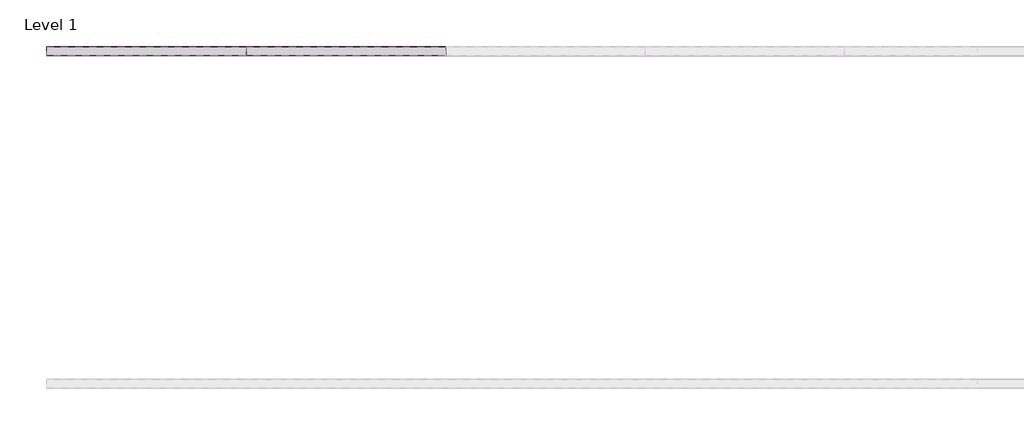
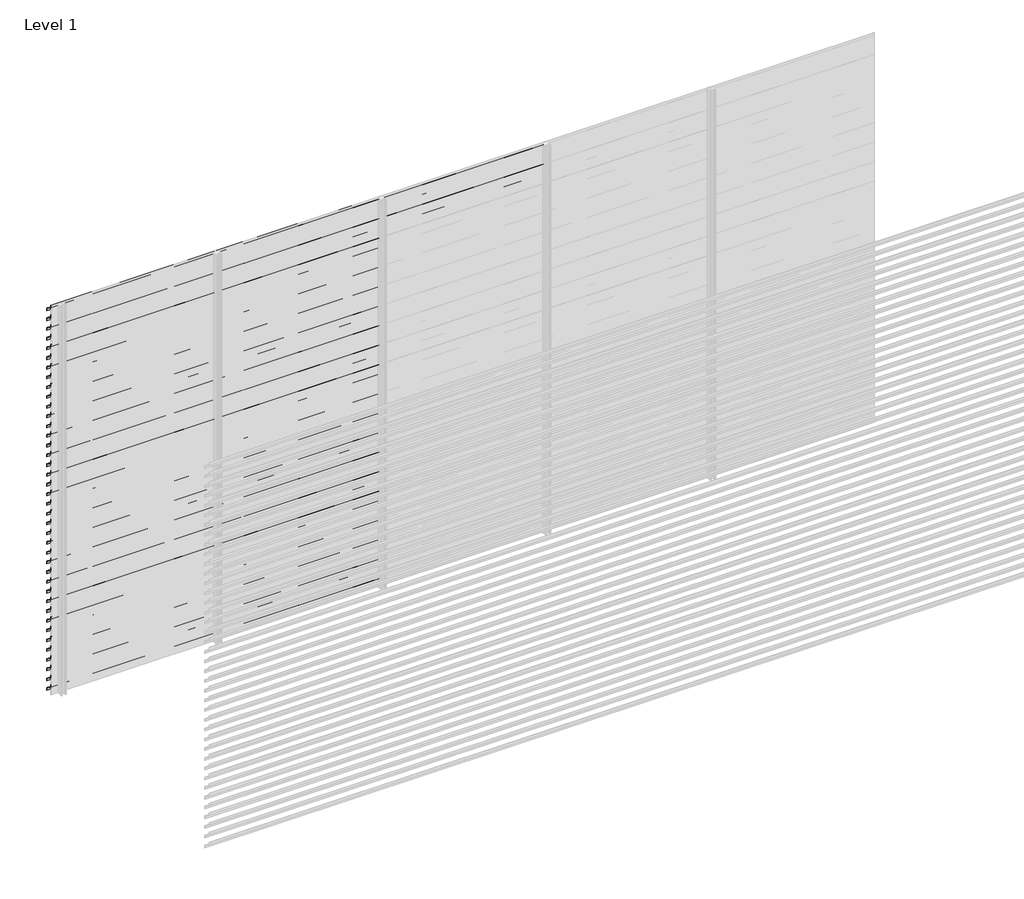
# One storey, part 42 of 55: 84 proxies.
"""IFC4 building model written with IfcOpenShell, lengths in millimetres."""

from ifc_helpers import new_model, si_unit, frame, origin, place, context, project, spatial, polyline, outline, extrude, element, save

model = new_model("IFC4")

# Units and contexts
model_context = context("Model", 3, world=origin())
ifc_project = project(units=[si_unit("LENGTHUNIT", "METRE", prefix="MILLI")], contexts=[model_context])

# Site, building, storey
site = spatial("IfcSite", under=ifc_project)
building = spatial("IfcBuilding", under=site)
storey = spatial("IfcBuildingStorey", under=building, Name="Level 1", Elevation=0.0)

# Proxies
placement = place(None, origin())
element("IfcBuildingElementProxy", 1, Name="Wall Sweeps", at=placement, inside=storey, context=model_context, shape_type="SweptSolid", body=[
    extrude(outline(polyline([(59081.0540136, 2943.5), (59081.0540136, 2923.5), (59079.8040136, 2924.2216933), (59079.8040136, 2942.7872415), (59026.0540136, 2980.3158044), (59026.0540136, 3000.0), (59027.3040136, 3000.0), (59027.3040136, 2981.0285629), (59081.0540136, 2943.5)])), frame((466.6208097, 0.0, 0.0), z_axis=(1.0, 0.0, 0.0), x_axis=(0.0, 1.0, 0.0)), (0.0, 0.0, 1.0), 1200.0000002),
])
element("IfcBuildingElementProxy", 2, Name="Wall Sweeps", at=placement, inside=storey, context=model_context, shape_type="SweptSolid", body=[
    extrude(outline(polyline([(59081.0540136, 2868.5), (59081.0540136, 2848.5), (59079.8040136, 2849.2216933), (59079.8040136, 2867.7872415), (59026.0540136, 2905.3158044), (59026.0540136, 2925.0), (59027.3040136, 2925.0), (59027.3040136, 2906.0285629), (59081.0540136, 2868.5)])), frame((466.6208097, 0.0, 0.0), z_axis=(1.0, 0.0, 0.0), x_axis=(0.0, 1.0, 0.0)), (0.0, 0.0, 1.0), 1200.0000002),
])
element("IfcBuildingElementProxy", 3, Name="Wall Sweeps", at=placement, inside=storey, context=model_context, shape_type="SweptSolid", body=[
    extrude(outline(polyline([(59081.0540136, 2793.5), (59081.0540136, 2773.5), (59079.8040136, 2774.2216933), (59079.8040136, 2792.7872415), (59026.0540136, 2830.3158044), (59026.0540136, 2850.0), (59027.3040136, 2850.0), (59027.3040136, 2831.0285629), (59081.0540136, 2793.5)])), frame((466.6208097, 0.0, 0.0), z_axis=(1.0, 0.0, 0.0), x_axis=(0.0, 1.0, 0.0)), (0.0, 0.0, 1.0), 1200.0000002),
])
element("IfcBuildingElementProxy", 4, Name="Wall Sweeps", at=placement, inside=storey, context=model_context, shape_type="SweptSolid", body=[
    extrude(outline(polyline([(59081.0540136, 2718.5), (59081.0540136, 2698.5), (59079.8040136, 2699.2216933), (59079.8040136, 2717.7872415), (59026.0540136, 2755.3158044), (59026.0540136, 2775.0), (59027.3040136, 2775.0), (59027.3040136, 2756.0285629), (59081.0540136, 2718.5)])), frame((466.6208097, 0.0, 0.0), z_axis=(1.0, 0.0, 0.0), x_axis=(0.0, 1.0, 0.0)), (0.0, 0.0, 1.0), 1200.0000002),
])
element("IfcBuildingElementProxy", 5, Name="Wall Sweeps", at=placement, inside=storey, context=model_context, shape_type="SweptSolid", body=[
    extrude(outline(polyline([(59081.0540136, 2643.5), (59081.0540136, 2623.5), (59079.8040136, 2624.2216933), (59079.8040136, 2642.7872415), (59026.0540136, 2680.3158044), (59026.0540136, 2700.0), (59027.3040136, 2700.0), (59027.3040136, 2681.0285629), (59081.0540136, 2643.5)])), frame((466.6208097, 0.0, 0.0), z_axis=(1.0, 0.0, 0.0), x_axis=(0.0, 1.0, 0.0)), (0.0, 0.0, 1.0), 1200.0000002),
])
element("IfcBuildingElementProxy", 6, Name="Wall Sweeps", at=placement, inside=storey, context=model_context, shape_type="SweptSolid", body=[
    extrude(outline(polyline([(59081.0540136, 2568.5), (59081.0540136, 2548.5), (59079.8040136, 2549.2216933), (59079.8040136, 2567.7872415), (59026.0540136, 2605.3158044), (59026.0540136, 2625.0), (59027.3040136, 2625.0), (59027.3040136, 2606.0285629), (59081.0540136, 2568.5)])), frame((466.6208097, 0.0, 0.0), z_axis=(1.0, 0.0, 0.0), x_axis=(0.0, 1.0, 0.0)), (0.0, 0.0, 1.0), 1200.0000002),
])
element("IfcBuildingElementProxy", 7, Name="Wall Sweeps", at=placement, inside=storey, context=model_context, shape_type="SweptSolid", body=[
    extrude(outline(polyline([(59081.0540136, 2493.5), (59081.0540136, 2473.5), (59079.8040136, 2474.2216933), (59079.8040136, 2492.7872415), (59026.0540136, 2530.3158044), (59026.0540136, 2550.0), (59027.3040136, 2550.0), (59027.3040136, 2531.0285629), (59081.0540136, 2493.5)])), frame((466.6208097, 0.0, 0.0), z_axis=(1.0, 0.0, 0.0), x_axis=(0.0, 1.0, 0.0)), (0.0, 0.0, 1.0), 1200.0000002),
])
element("IfcBuildingElementProxy", 8, Name="Wall Sweeps", at=placement, inside=storey, context=model_context, shape_type="SweptSolid", body=[
    extrude(outline(polyline([(59081.0540136, 2418.5), (59081.0540136, 2398.5), (59079.8040136, 2399.2216933), (59079.8040136, 2417.7872415), (59026.0540136, 2455.3158044), (59026.0540136, 2475.0), (59027.3040136, 2475.0), (59027.3040136, 2456.0285629), (59081.0540136, 2418.5)])), frame((466.6208097, 0.0, 0.0), z_axis=(1.0, 0.0, 0.0), x_axis=(0.0, 1.0, 0.0)), (0.0, 0.0, 1.0), 1200.0000002),
])
element("IfcBuildingElementProxy", 9, Name="Wall Sweeps", at=placement, inside=storey, context=model_context, shape_type="SweptSolid", body=[
    extrude(outline(polyline([(59081.0540136, 2343.5), (59081.0540136, 2323.5), (59079.8040136, 2324.2216933), (59079.8040136, 2342.7872415), (59026.0540136, 2380.3158044), (59026.0540136, 2400.0), (59027.3040136, 2400.0), (59027.3040136, 2381.0285629), (59081.0540136, 2343.5)])), frame((466.6208097, 0.0, 0.0), z_axis=(1.0, 0.0, 0.0), x_axis=(0.0, 1.0, 0.0)), (0.0, 0.0, 1.0), 1200.0000002),
])
element("IfcBuildingElementProxy", 10, Name="Wall Sweeps", at=placement, inside=storey, context=model_context, shape_type="SweptSolid", body=[
    extrude(outline(polyline([(59081.0540136, 2268.5), (59081.0540136, 2248.5), (59079.8040136, 2249.2216933), (59079.8040136, 2267.7872415), (59026.0540136, 2305.3158044), (59026.0540136, 2325.0), (59027.3040136, 2325.0), (59027.3040136, 2306.0285629), (59081.0540136, 2268.5)])), frame((466.6208097, 0.0, 0.0), z_axis=(1.0, 0.0, 0.0), x_axis=(0.0, 1.0, 0.0)), (0.0, 0.0, 1.0), 1200.0000002),
])
element("IfcBuildingElementProxy", 11, Name="Wall Sweeps", at=placement, inside=storey, context=model_context, shape_type="SweptSolid", body=[
    extrude(outline(polyline([(59081.0540136, 2193.5), (59081.0540136, 2173.5), (59079.8040136, 2174.2216933), (59079.8040136, 2192.7872415), (59026.0540136, 2230.3158044), (59026.0540136, 2250.0), (59027.3040136, 2250.0), (59027.3040136, 2231.0285629), (59081.0540136, 2193.5)])), frame((466.6208097, 0.0, 0.0), z_axis=(1.0, 0.0, 0.0), x_axis=(0.0, 1.0, 0.0)), (0.0, 0.0, 1.0), 1200.0000002),
])
element("IfcBuildingElementProxy", 12, Name="Wall Sweeps", at=placement, inside=storey, context=model_context, shape_type="SweptSolid", body=[
    extrude(outline(polyline([(59081.0540136, 2118.5), (59081.0540136, 2098.5), (59079.8040136, 2099.2216933), (59079.8040136, 2117.7872415), (59026.0540136, 2155.3158044), (59026.0540136, 2175.0), (59027.3040136, 2175.0), (59027.3040136, 2156.0285629), (59081.0540136, 2118.5)])), frame((466.6208097, 0.0, 0.0), z_axis=(1.0, 0.0, 0.0), x_axis=(0.0, 1.0, 0.0)), (0.0, 0.0, 1.0), 1200.0000002),
])
element("IfcBuildingElementProxy", 13, Name="Wall Sweeps", at=placement, inside=storey, context=model_context, shape_type="SweptSolid", body=[
    extrude(outline(polyline([(59081.0540136, 2043.5), (59081.0540136, 2023.5), (59079.8040136, 2024.2216933), (59079.8040136, 2042.7872415), (59026.0540136, 2080.3158044), (59026.0540136, 2100.0), (59027.3040136, 2100.0), (59027.3040136, 2081.0285629), (59081.0540136, 2043.5)])), frame((466.6208097, 0.0, 0.0), z_axis=(1.0, 0.0, 0.0), x_axis=(0.0, 1.0, 0.0)), (0.0, 0.0, 1.0), 1200.0000002),
])
element("IfcBuildingElementProxy", 14, Name="Wall Sweeps", at=placement, inside=storey, context=model_context, shape_type="SweptSolid", body=[
    extrude(outline(polyline([(59081.0540136, 1968.5), (59081.0540136, 1948.5), (59079.8040136, 1949.2216933), (59079.8040136, 1967.7872415), (59026.0540136, 2005.3158044), (59026.0540136, 2025.0), (59027.3040136, 2025.0), (59027.3040136, 2006.0285629), (59081.0540136, 1968.5)])), frame((466.6208097, 0.0, 0.0), z_axis=(1.0, 0.0, 0.0), x_axis=(0.0, 1.0, 0.0)), (0.0, 0.0, 1.0), 1200.0000002),
])
element("IfcBuildingElementProxy", 15, Name="Wall Sweeps", at=placement, inside=storey, context=model_context, shape_type="SweptSolid", body=[
    extrude(outline(polyline([(59081.0540136, 1893.5), (59081.0540136, 1873.5), (59079.8040136, 1874.2216933), (59079.8040136, 1892.7872415), (59026.0540136, 1930.3158044), (59026.0540136, 1950.0), (59027.3040136, 1950.0), (59027.3040136, 1931.0285629), (59081.0540136, 1893.5)])), frame((466.6208097, 0.0, 0.0), z_axis=(1.0, 0.0, 0.0), x_axis=(0.0, 1.0, 0.0)), (0.0, 0.0, 1.0), 1200.0000002),
])
element("IfcBuildingElementProxy", 16, Name="Wall Sweeps", at=placement, inside=storey, context=model_context, shape_type="SweptSolid", body=[
    extrude(outline(polyline([(59081.0540136, 1818.5), (59081.0540136, 1798.5), (59079.8040136, 1799.2216933), (59079.8040136, 1817.7872415), (59026.0540136, 1855.3158044), (59026.0540136, 1875.0), (59027.3040136, 1875.0), (59027.3040136, 1856.0285629), (59081.0540136, 1818.5)])), frame((466.6208097, 0.0, 0.0), z_axis=(1.0, 0.0, 0.0), x_axis=(0.0, 1.0, 0.0)), (0.0, 0.0, 1.0), 1200.0000002),
])
element("IfcBuildingElementProxy", 17, Name="Wall Sweeps", at=placement, inside=storey, context=model_context, shape_type="SweptSolid", body=[
    extrude(outline(polyline([(59081.0540136, 1743.5), (59081.0540136, 1723.5), (59079.8040136, 1724.2216933), (59079.8040136, 1742.7872415), (59026.0540136, 1780.3158044), (59026.0540136, 1800.0), (59027.3040136, 1800.0), (59027.3040136, 1781.0285629), (59081.0540136, 1743.5)])), frame((466.6208097, 0.0, 0.0), z_axis=(1.0, 0.0, 0.0), x_axis=(0.0, 1.0, 0.0)), (0.0, 0.0, 1.0), 1200.0000002),
])
element("IfcBuildingElementProxy", 18, Name="Wall Sweeps", at=placement, inside=storey, context=model_context, shape_type="SweptSolid", body=[
    extrude(outline(polyline([(59081.0540136, 1668.5), (59081.0540136, 1648.5), (59079.8040136, 1649.2216933), (59079.8040136, 1667.7872415), (59026.0540136, 1705.3158044), (59026.0540136, 1725.0), (59027.3040136, 1725.0), (59027.3040136, 1706.0285629), (59081.0540136, 1668.5)])), frame((466.6208097, 0.0, 0.0), z_axis=(1.0, 0.0, 0.0), x_axis=(0.0, 1.0, 0.0)), (0.0, 0.0, 1.0), 1200.0000002),
])
element("IfcBuildingElementProxy", 19, Name="Wall Sweeps", at=placement, inside=storey, context=model_context, shape_type="SweptSolid", body=[
    extrude(outline(polyline([(59081.0540136, 1593.5), (59081.0540136, 1573.5), (59079.8040136, 1574.2216933), (59079.8040136, 1592.7872415), (59026.0540136, 1630.3158044), (59026.0540136, 1650.0), (59027.3040136, 1650.0), (59027.3040136, 1631.0285629), (59081.0540136, 1593.5)])), frame((466.6208097, 0.0, 0.0), z_axis=(1.0, 0.0, 0.0), x_axis=(0.0, 1.0, 0.0)), (0.0, 0.0, 1.0), 1200.0000002),
])
element("IfcBuildingElementProxy", 20, Name="Wall Sweeps", at=placement, inside=storey, context=model_context, shape_type="SweptSolid", body=[
    extrude(outline(polyline([(59081.0540136, 1518.5), (59081.0540136, 1498.5), (59079.8040136, 1499.2216933), (59079.8040136, 1517.7872415), (59026.0540136, 1555.3158044), (59026.0540136, 1575.0), (59027.3040136, 1575.0), (59027.3040136, 1556.0285629), (59081.0540136, 1518.5)])), frame((466.6208097, 0.0, 0.0), z_axis=(1.0, 0.0, 0.0), x_axis=(0.0, 1.0, 0.0)), (0.0, 0.0, 1.0), 1200.0000002),
])
element("IfcBuildingElementProxy", 21, Name="Wall Sweeps", at=placement, inside=storey, context=model_context, shape_type="SweptSolid", body=[
    extrude(outline(polyline([(59081.0540136, 1443.5), (59081.0540136, 1423.5), (59079.8040136, 1424.2216933), (59079.8040136, 1442.7872415), (59026.0540136, 1480.3158044), (59026.0540136, 1500.0), (59027.3040136, 1500.0), (59027.3040136, 1481.0285629), (59081.0540136, 1443.5)])), frame((466.6208097, 0.0, 0.0), z_axis=(1.0, 0.0, 0.0), x_axis=(0.0, 1.0, 0.0)), (0.0, 0.0, 1.0), 1200.0000002),
])
element("IfcBuildingElementProxy", 22, Name="Wall Sweeps", at=placement, inside=storey, context=model_context, shape_type="SweptSolid", body=[
    extrude(outline(polyline([(59081.0540136, 1368.5), (59081.0540136, 1348.5), (59079.8040136, 1349.2216933), (59079.8040136, 1367.7872415), (59026.0540136, 1405.3158044), (59026.0540136, 1425.0), (59027.3040136, 1425.0), (59027.3040136, 1406.0285629), (59081.0540136, 1368.5)])), frame((466.6208097, 0.0, 0.0), z_axis=(1.0, 0.0, 0.0), x_axis=(0.0, 1.0, 0.0)), (0.0, 0.0, 1.0), 1200.0000002),
])
element("IfcBuildingElementProxy", 23, Name="Wall Sweeps", at=placement, inside=storey, context=model_context, shape_type="SweptSolid", body=[
    extrude(outline(polyline([(59081.0540136, 1293.5), (59081.0540136, 1273.5), (59079.8040136, 1274.2216933), (59079.8040136, 1292.7872415), (59026.0540136, 1330.3158044), (59026.0540136, 1350.0), (59027.3040136, 1350.0), (59027.3040136, 1331.0285629), (59081.0540136, 1293.5)])), frame((466.6208097, 0.0, 0.0), z_axis=(1.0, 0.0, 0.0), x_axis=(0.0, 1.0, 0.0)), (0.0, 0.0, 1.0), 1200.0000002),
])
element("IfcBuildingElementProxy", 24, Name="Wall Sweeps", at=placement, inside=storey, context=model_context, shape_type="SweptSolid", body=[
    extrude(outline(polyline([(59081.0540136, 1218.5), (59081.0540136, 1198.5), (59079.8040136, 1199.2216933), (59079.8040136, 1217.7872415), (59026.0540136, 1255.3158044), (59026.0540136, 1275.0), (59027.3040136, 1275.0), (59027.3040136, 1256.0285629), (59081.0540136, 1218.5)])), frame((466.6208097, 0.0, 0.0), z_axis=(1.0, 0.0, 0.0), x_axis=(0.0, 1.0, 0.0)), (0.0, 0.0, 1.0), 1200.0000002),
])
element("IfcBuildingElementProxy", 25, Name="Wall Sweeps", at=placement, inside=storey, context=model_context, shape_type="SweptSolid", body=[
    extrude(outline(polyline([(59081.0540136, 1143.5), (59081.0540136, 1123.5), (59079.8040136, 1124.2216933), (59079.8040136, 1142.7872415), (59026.0540136, 1180.3158044), (59026.0540136, 1200.0), (59027.3040136, 1200.0), (59027.3040136, 1181.0285629), (59081.0540136, 1143.5)])), frame((466.6208097, 0.0, 0.0), z_axis=(1.0, 0.0, 0.0), x_axis=(0.0, 1.0, 0.0)), (0.0, 0.0, 1.0), 1200.0000002),
])
element("IfcBuildingElementProxy", 26, Name="Wall Sweeps", at=placement, inside=storey, context=model_context, shape_type="SweptSolid", body=[
    extrude(outline(polyline([(59081.0540136, 1068.5), (59081.0540136, 1048.5), (59079.8040136, 1049.2216933), (59079.8040136, 1067.7872415), (59026.0540136, 1105.3158044), (59026.0540136, 1125.0), (59027.3040136, 1125.0), (59027.3040136, 1106.0285629), (59081.0540136, 1068.5)])), frame((466.6208097, 0.0, 0.0), z_axis=(1.0, 0.0, 0.0), x_axis=(0.0, 1.0, 0.0)), (0.0, 0.0, 1.0), 1200.0000002),
])
element("IfcBuildingElementProxy", 27, Name="Wall Sweeps", at=placement, inside=storey, context=model_context, shape_type="SweptSolid", body=[
    extrude(outline(polyline([(59081.0540136, 993.5), (59081.0540136, 973.5), (59079.8040136, 974.2216933), (59079.8040136, 992.7872415), (59026.0540136, 1030.3158044), (59026.0540136, 1050.0), (59027.3040136, 1050.0), (59027.3040136, 1031.0285629), (59081.0540136, 993.5)])), frame((466.6208097, 0.0, 0.0), z_axis=(1.0, 0.0, 0.0), x_axis=(0.0, 1.0, 0.0)), (0.0, 0.0, 1.0), 1200.0000002),
])
element("IfcBuildingElementProxy", 28, Name="Wall Sweeps", at=placement, inside=storey, context=model_context, shape_type="SweptSolid", body=[
    extrude(outline(polyline([(59081.0540136, 918.5), (59081.0540136, 898.5), (59079.8040136, 899.2216933), (59079.8040136, 917.7872415), (59026.0540136, 955.3158044), (59026.0540136, 975.0), (59027.3040136, 975.0), (59027.3040136, 956.0285629), (59081.0540136, 918.5)])), frame((466.6208097, 0.0, 0.0), z_axis=(1.0, 0.0, 0.0), x_axis=(0.0, 1.0, 0.0)), (0.0, 0.0, 1.0), 1200.0000002),
])
element("IfcBuildingElementProxy", 29, Name="Wall Sweeps", at=placement, inside=storey, context=model_context, shape_type="SweptSolid", body=[
    extrude(outline(polyline([(59081.0540136, 843.5), (59081.0540136, 823.5), (59079.8040136, 824.2216933), (59079.8040136, 842.7872415), (59026.0540136, 880.3158044), (59026.0540136, 900.0), (59027.3040136, 900.0), (59027.3040136, 881.0285629), (59081.0540136, 843.5)])), frame((466.6208097, 0.0, 0.0), z_axis=(1.0, 0.0, 0.0), x_axis=(0.0, 1.0, 0.0)), (0.0, 0.0, 1.0), 1200.0000002),
])
element("IfcBuildingElementProxy", 30, Name="Wall Sweeps", at=placement, inside=storey, context=model_context, shape_type="SweptSolid", body=[
    extrude(outline(polyline([(59081.0540136, 768.5), (59081.0540136, 748.5), (59079.8040136, 749.2216933), (59079.8040136, 767.7872415), (59026.0540136, 805.3158044), (59026.0540136, 825.0), (59027.3040136, 825.0), (59027.3040136, 806.0285629), (59081.0540136, 768.5)])), frame((466.6208097, 0.0, 0.0), z_axis=(1.0, 0.0, 0.0), x_axis=(0.0, 1.0, 0.0)), (0.0, 0.0, 1.0), 1200.0000002),
])
element("IfcBuildingElementProxy", 31, Name="Wall Sweeps", at=placement, inside=storey, context=model_context, shape_type="SweptSolid", body=[
    extrude(outline(polyline([(59081.0540136, 693.5), (59081.0540136, 673.5), (59079.8040136, 674.2216933), (59079.8040136, 692.7872415), (59026.0540136, 730.3158044), (59026.0540136, 750.0), (59027.3040136, 750.0), (59027.3040136, 731.0285629), (59081.0540136, 693.5)])), frame((466.6208097, 0.0, 0.0), z_axis=(1.0, 0.0, 0.0), x_axis=(0.0, 1.0, 0.0)), (0.0, 0.0, 1.0), 1200.0000002),
])
element("IfcBuildingElementProxy", 32, Name="Wall Sweeps", at=placement, inside=storey, context=model_context, shape_type="SweptSolid", body=[
    extrude(outline(polyline([(59081.0540136, 618.5), (59081.0540136, 598.5), (59079.8040136, 599.2216933), (59079.8040136, 617.7872415), (59026.0540136, 655.3158044), (59026.0540136, 675.0), (59027.3040136, 675.0), (59027.3040136, 656.0285629), (59081.0540136, 618.5)])), frame((466.6208097, 0.0, 0.0), z_axis=(1.0, 0.0, 0.0), x_axis=(0.0, 1.0, 0.0)), (0.0, 0.0, 1.0), 1200.0000002),
])
element("IfcBuildingElementProxy", 33, Name="Wall Sweeps", at=placement, inside=storey, context=model_context, shape_type="SweptSolid", body=[
    extrude(outline(polyline([(59081.0540136, 543.5), (59081.0540136, 523.5), (59079.8040136, 524.2216933), (59079.8040136, 542.7872415), (59026.0540136, 580.3158044), (59026.0540136, 600.0), (59027.3040136, 600.0), (59027.3040136, 581.0285629), (59081.0540136, 543.5)])), frame((466.6208097, 0.0, 0.0), z_axis=(1.0, 0.0, 0.0), x_axis=(0.0, 1.0, 0.0)), (0.0, 0.0, 1.0), 1200.0000002),
])
element("IfcBuildingElementProxy", 34, Name="Wall Sweeps", at=placement, inside=storey, context=model_context, shape_type="SweptSolid", body=[
    extrude(outline(polyline([(59081.0540136, 468.5), (59081.0540136, 448.5), (59079.8040136, 449.2216933), (59079.8040136, 467.7872415), (59026.0540136, 505.3158044), (59026.0540136, 525.0), (59027.3040136, 525.0), (59027.3040136, 506.0285629), (59081.0540136, 468.5)])), frame((466.6208097, 0.0, 0.0), z_axis=(1.0, 0.0, 0.0), x_axis=(0.0, 1.0, 0.0)), (0.0, 0.0, 1.0), 1200.0000002),
])
element("IfcBuildingElementProxy", 35, Name="Wall Sweeps", at=placement, inside=storey, context=model_context, shape_type="SweptSolid", body=[
    extrude(outline(polyline([(59081.0540136, 393.5), (59081.0540136, 373.5), (59079.8040136, 374.2216933), (59079.8040136, 392.7872415), (59026.0540136, 430.3158044), (59026.0540136, 450.0), (59027.3040136, 450.0), (59027.3040136, 431.0285629), (59081.0540136, 393.5)])), frame((466.6208097, 0.0, 0.0), z_axis=(1.0, 0.0, 0.0), x_axis=(0.0, 1.0, 0.0)), (0.0, 0.0, 1.0), 1200.0000002),
])
element("IfcBuildingElementProxy", 36, Name="Wall Sweeps", at=placement, inside=storey, context=model_context, shape_type="SweptSolid", body=[
    extrude(outline(polyline([(59081.0540136, 318.5), (59081.0540136, 298.5), (59079.8040136, 299.2216933), (59079.8040136, 317.7872415), (59026.0540136, 355.3158044), (59026.0540136, 375.0), (59027.3040136, 375.0), (59027.3040136, 356.0285629), (59081.0540136, 318.5)])), frame((466.6208097, 0.0, 0.0), z_axis=(1.0, 0.0, 0.0), x_axis=(0.0, 1.0, 0.0)), (0.0, 0.0, 1.0), 1200.0000002),
])
element("IfcBuildingElementProxy", 37, Name="Wall Sweeps", at=placement, inside=storey, context=model_context, shape_type="SweptSolid", body=[
    extrude(outline(polyline([(59081.0540136, 243.5), (59081.0540136, 223.5), (59079.8040136, 224.2216933), (59079.8040136, 242.7872415), (59026.0540136, 280.3158044), (59026.0540136, 300.0), (59027.3040136, 300.0), (59027.3040136, 281.0285629), (59081.0540136, 243.5)])), frame((466.6208097, 0.0, 0.0), z_axis=(1.0, 0.0, 0.0), x_axis=(0.0, 1.0, 0.0)), (0.0, 0.0, 1.0), 1200.0000002),
])
element("IfcBuildingElementProxy", 38, Name="Wall Sweeps", at=placement, inside=storey, context=model_context, shape_type="SweptSolid", body=[
    extrude(outline(polyline([(59081.0540136, 168.5), (59081.0540136, 148.5), (59079.8040136, 149.2216933), (59079.8040136, 167.7872415), (59026.0540136, 205.3158044), (59026.0540136, 225.0), (59027.3040136, 225.0), (59027.3040136, 206.0285629), (59081.0540136, 168.5)])), frame((466.6208097, 0.0, 0.0), z_axis=(1.0, 0.0, 0.0), x_axis=(0.0, 1.0, 0.0)), (0.0, 0.0, 1.0), 1200.0000002),
])
element("IfcBuildingElementProxy", 39, Name="Wall Sweeps", at=placement, inside=storey, context=model_context, shape_type="SweptSolid", body=[
    extrude(outline(polyline([(59081.0540136, 93.5), (59081.0540136, 73.5), (59079.8040136, 74.2216933), (59079.8040136, 92.7872415), (59026.0540136, 130.3158044), (59026.0540136, 150.0), (59027.3040136, 150.0), (59027.3040136, 131.0285629), (59081.0540136, 93.5)])), frame((466.6208097, 0.0, 0.0), z_axis=(1.0, 0.0, 0.0), x_axis=(0.0, 1.0, 0.0)), (0.0, 0.0, 1.0), 1200.0000002),
])
element("IfcBuildingElementProxy", 40, Name="Wall Sweeps", at=placement, inside=storey, context=model_context, shape_type="SweptSolid", body=[
    extrude(outline(polyline([(59081.0540136, 18.5), (59081.0540136, -1.5), (59079.8040136, -0.7783067), (59079.8040136, 17.7872415), (59026.0540136, 55.3158044), (59026.0540136, 75.0), (59027.3040136, 75.0), (59027.3040136, 56.0285629), (59081.0540136, 18.5)])), frame((466.6208097, 0.0, 0.0), z_axis=(1.0, 0.0, 0.0), x_axis=(0.0, 1.0, 0.0)), (0.0, 0.0, 1.0), 1200.0000002),
])
element("IfcBuildingElementProxy", 41, Name="Wall Sweeps", at=placement, inside=storey, context=model_context, shape_type="SweptSolid", body=[
    extrude(outline(polyline([(59081.0540136, 2943.5), (59081.0540136, 2923.5), (59079.8040136, 2924.2216933), (59079.8040136, 2942.7872415), (59026.0540136, 2980.3158044), (59026.0540136, 3000.0), (59027.3040136, 3000.0), (59027.3040136, 2981.0285629), (59081.0540136, 2943.5)])), frame((1666.6208099, 0.0, 0.0), z_axis=(1.0, 0.0, 0.0), x_axis=(0.0, 1.0, 0.0)), (0.0, 0.0, 1.0), 1199.9999999),
])
element("IfcBuildingElementProxy", 42, Name="Wall Sweeps", at=placement, inside=storey, context=model_context, shape_type="SweptSolid", body=[
    extrude(outline(polyline([(59081.0540136, 2868.5), (59081.0540136, 2848.5), (59079.8040136, 2849.2216933), (59079.8040136, 2867.7872415), (59026.0540136, 2905.3158044), (59026.0540136, 2925.0), (59027.3040136, 2925.0), (59027.3040136, 2906.0285629), (59081.0540136, 2868.5)])), frame((1666.6208099, 0.0, 0.0), z_axis=(1.0, 0.0, 0.0), x_axis=(0.0, 1.0, 0.0)), (0.0, 0.0, 1.0), 1199.9999999),
])
element("IfcBuildingElementProxy", 43, Name="Wall Sweeps", at=placement, inside=storey, context=model_context, shape_type="SweptSolid", body=[
    extrude(outline(polyline([(59081.0540136, 2793.5), (59081.0540136, 2773.5), (59079.8040136, 2774.2216933), (59079.8040136, 2792.7872415), (59026.0540136, 2830.3158044), (59026.0540136, 2850.0), (59027.3040136, 2850.0), (59027.3040136, 2831.0285629), (59081.0540136, 2793.5)])), frame((1666.6208099, 0.0, 0.0), z_axis=(1.0, 0.0, 0.0), x_axis=(0.0, 1.0, 0.0)), (0.0, 0.0, 1.0), 1199.9999999),
])
element("IfcBuildingElementProxy", 44, Name="Wall Sweeps", at=placement, inside=storey, context=model_context, shape_type="SweptSolid", body=[
    extrude(outline(polyline([(59081.0540136, 2718.5), (59081.0540136, 2698.5), (59079.8040136, 2699.2216933), (59079.8040136, 2717.7872415), (59026.0540136, 2755.3158044), (59026.0540136, 2775.0), (59027.3040136, 2775.0), (59027.3040136, 2756.0285629), (59081.0540136, 2718.5)])), frame((1666.6208099, 0.0, 0.0), z_axis=(1.0, 0.0, 0.0), x_axis=(0.0, 1.0, 0.0)), (0.0, 0.0, 1.0), 1199.9999999),
])
element("IfcBuildingElementProxy", 45, Name="Wall Sweeps", at=placement, inside=storey, context=model_context, shape_type="SweptSolid", body=[
    extrude(outline(polyline([(59081.0540136, 2643.5), (59081.0540136, 2623.5), (59079.8040136, 2624.2216933), (59079.8040136, 2642.7872415), (59026.0540136, 2680.3158044), (59026.0540136, 2700.0), (59027.3040136, 2700.0), (59027.3040136, 2681.0285629), (59081.0540136, 2643.5)])), frame((1666.6208099, 0.0, 0.0), z_axis=(1.0, 0.0, 0.0), x_axis=(0.0, 1.0, 0.0)), (0.0, 0.0, 1.0), 1199.9999999),
])
element("IfcBuildingElementProxy", 46, Name="Wall Sweeps", at=placement, inside=storey, context=model_context, shape_type="SweptSolid", body=[
    extrude(outline(polyline([(59081.0540136, 2568.5), (59081.0540136, 2548.5), (59079.8040136, 2549.2216933), (59079.8040136, 2567.7872415), (59026.0540136, 2605.3158044), (59026.0540136, 2625.0), (59027.3040136, 2625.0), (59027.3040136, 2606.0285629), (59081.0540136, 2568.5)])), frame((1666.6208099, 0.0, 0.0), z_axis=(1.0, 0.0, 0.0), x_axis=(0.0, 1.0, 0.0)), (0.0, 0.0, 1.0), 1199.9999999),
])
element("IfcBuildingElementProxy", 47, Name="Wall Sweeps", at=placement, inside=storey, context=model_context, shape_type="SweptSolid", body=[
    extrude(outline(polyline([(59081.0540136, 2493.5), (59081.0540136, 2473.5), (59079.8040136, 2474.2216933), (59079.8040136, 2492.7872415), (59026.0540136, 2530.3158044), (59026.0540136, 2550.0), (59027.3040136, 2550.0), (59027.3040136, 2531.0285629), (59081.0540136, 2493.5)])), frame((1666.6208099, 0.0, 0.0), z_axis=(1.0, 0.0, 0.0), x_axis=(0.0, 1.0, 0.0)), (0.0, 0.0, 1.0), 1199.9999999),
])
element("IfcBuildingElementProxy", 48, Name="Wall Sweeps", at=placement, inside=storey, context=model_context, shape_type="SweptSolid", body=[
    extrude(outline(polyline([(59081.0540136, 2418.5), (59081.0540136, 2398.5), (59079.8040136, 2399.2216933), (59079.8040136, 2417.7872415), (59026.0540136, 2455.3158044), (59026.0540136, 2475.0), (59027.3040136, 2475.0), (59027.3040136, 2456.0285629), (59081.0540136, 2418.5)])), frame((1666.6208099, 0.0, 0.0), z_axis=(1.0, 0.0, 0.0), x_axis=(0.0, 1.0, 0.0)), (0.0, 0.0, 1.0), 1199.9999999),
])
element("IfcBuildingElementProxy", 49, Name="Wall Sweeps", at=placement, inside=storey, context=model_context, shape_type="SweptSolid", body=[
    extrude(outline(polyline([(59081.0540136, 2343.5), (59081.0540136, 2323.5), (59079.8040136, 2324.2216933), (59079.8040136, 2342.7872415), (59026.0540136, 2380.3158044), (59026.0540136, 2400.0), (59027.3040136, 2400.0), (59027.3040136, 2381.0285629), (59081.0540136, 2343.5)])), frame((1666.6208099, 0.0, 0.0), z_axis=(1.0, 0.0, 0.0), x_axis=(0.0, 1.0, 0.0)), (0.0, 0.0, 1.0), 1199.9999999),
])
element("IfcBuildingElementProxy", 50, Name="Wall Sweeps", at=placement, inside=storey, context=model_context, shape_type="SweptSolid", body=[
    extrude(outline(polyline([(59081.0540136, 2268.5), (59081.0540136, 2248.5), (59079.8040136, 2249.2216933), (59079.8040136, 2267.7872415), (59026.0540136, 2305.3158044), (59026.0540136, 2325.0), (59027.3040136, 2325.0), (59027.3040136, 2306.0285629), (59081.0540136, 2268.5)])), frame((1666.6208099, 0.0, 0.0), z_axis=(1.0, 0.0, 0.0), x_axis=(0.0, 1.0, 0.0)), (0.0, 0.0, 1.0), 1199.9999999),
])
element("IfcBuildingElementProxy", 51, Name="Wall Sweeps", at=placement, inside=storey, context=model_context, shape_type="SweptSolid", body=[
    extrude(outline(polyline([(59081.0540136, 2193.5), (59081.0540136, 2173.5), (59079.8040136, 2174.2216933), (59079.8040136, 2192.7872415), (59026.0540136, 2230.3158044), (59026.0540136, 2250.0), (59027.3040136, 2250.0), (59027.3040136, 2231.0285629), (59081.0540136, 2193.5)])), frame((1666.6208099, 0.0, 0.0), z_axis=(1.0, 0.0, 0.0), x_axis=(0.0, 1.0, 0.0)), (0.0, 0.0, 1.0), 1199.9999999),
])
element("IfcBuildingElementProxy", 52, Name="Wall Sweeps", at=placement, inside=storey, context=model_context, shape_type="SweptSolid", body=[
    extrude(outline(polyline([(59081.0540136, 2118.5), (59081.0540136, 2098.5), (59079.8040136, 2099.2216933), (59079.8040136, 2117.7872415), (59026.0540136, 2155.3158044), (59026.0540136, 2175.0), (59027.3040136, 2175.0), (59027.3040136, 2156.0285629), (59081.0540136, 2118.5)])), frame((1666.6208099, 0.0, 0.0), z_axis=(1.0, 0.0, 0.0), x_axis=(0.0, 1.0, 0.0)), (0.0, 0.0, 1.0), 1199.9999999),
])
element("IfcBuildingElementProxy", 53, Name="Wall Sweeps", at=placement, inside=storey, context=model_context, shape_type="SweptSolid", body=[
    extrude(outline(polyline([(59081.0540136, 2043.5), (59081.0540136, 2023.5), (59079.8040136, 2024.2216933), (59079.8040136, 2042.7872415), (59026.0540136, 2080.3158044), (59026.0540136, 2100.0), (59027.3040136, 2100.0), (59027.3040136, 2081.0285629), (59081.0540136, 2043.5)])), frame((1666.6208099, 0.0, 0.0), z_axis=(1.0, 0.0, 0.0), x_axis=(0.0, 1.0, 0.0)), (0.0, 0.0, 1.0), 1199.9999999),
])
element("IfcBuildingElementProxy", 54, Name="Wall Sweeps", at=placement, inside=storey, context=model_context, shape_type="SweptSolid", body=[
    extrude(outline(polyline([(59081.0540136, 1968.5), (59081.0540136, 1948.5), (59079.8040136, 1949.2216933), (59079.8040136, 1967.7872415), (59026.0540136, 2005.3158044), (59026.0540136, 2025.0), (59027.3040136, 2025.0), (59027.3040136, 2006.0285629), (59081.0540136, 1968.5)])), frame((1666.6208099, 0.0, 0.0), z_axis=(1.0, 0.0, 0.0), x_axis=(0.0, 1.0, 0.0)), (0.0, 0.0, 1.0), 1199.9999999),
])
element("IfcBuildingElementProxy", 55, Name="Wall Sweeps", at=placement, inside=storey, context=model_context, shape_type="SweptSolid", body=[
    extrude(outline(polyline([(59081.0540136, 1893.5), (59081.0540136, 1873.5), (59079.8040136, 1874.2216933), (59079.8040136, 1892.7872415), (59026.0540136, 1930.3158044), (59026.0540136, 1950.0), (59027.3040136, 1950.0), (59027.3040136, 1931.0285629), (59081.0540136, 1893.5)])), frame((1666.6208099, 0.0, 0.0), z_axis=(1.0, 0.0, 0.0), x_axis=(0.0, 1.0, 0.0)), (0.0, 0.0, 1.0), 1199.9999999),
])
element("IfcBuildingElementProxy", 56, Name="Wall Sweeps", at=placement, inside=storey, context=model_context, shape_type="SweptSolid", body=[
    extrude(outline(polyline([(59081.0540136, 1818.5), (59081.0540136, 1798.5), (59079.8040136, 1799.2216933), (59079.8040136, 1817.7872415), (59026.0540136, 1855.3158044), (59026.0540136, 1875.0), (59027.3040136, 1875.0), (59027.3040136, 1856.0285629), (59081.0540136, 1818.5)])), frame((1666.6208099, 0.0, 0.0), z_axis=(1.0, 0.0, 0.0), x_axis=(0.0, 1.0, 0.0)), (0.0, 0.0, 1.0), 1199.9999999),
])
element("IfcBuildingElementProxy", 57, Name="Wall Sweeps", at=placement, inside=storey, context=model_context, shape_type="SweptSolid", body=[
    extrude(outline(polyline([(59081.0540136, 1743.5), (59081.0540136, 1723.5), (59079.8040136, 1724.2216933), (59079.8040136, 1742.7872415), (59026.0540136, 1780.3158044), (59026.0540136, 1800.0), (59027.3040136, 1800.0), (59027.3040136, 1781.0285629), (59081.0540136, 1743.5)])), frame((1666.6208099, 0.0, 0.0), z_axis=(1.0, 0.0, 0.0), x_axis=(0.0, 1.0, 0.0)), (0.0, 0.0, 1.0), 1199.9999999),
])
element("IfcBuildingElementProxy", 58, Name="Wall Sweeps", at=placement, inside=storey, context=model_context, shape_type="SweptSolid", body=[
    extrude(outline(polyline([(59081.0540136, 1668.5), (59081.0540136, 1648.5), (59079.8040136, 1649.2216933), (59079.8040136, 1667.7872415), (59026.0540136, 1705.3158044), (59026.0540136, 1725.0), (59027.3040136, 1725.0), (59027.3040136, 1706.0285629), (59081.0540136, 1668.5)])), frame((1666.6208099, 0.0, 0.0), z_axis=(1.0, 0.0, 0.0), x_axis=(0.0, 1.0, 0.0)), (0.0, 0.0, 1.0), 1199.9999999),
])
element("IfcBuildingElementProxy", 59, Name="Wall Sweeps", at=placement, inside=storey, context=model_context, shape_type="SweptSolid", body=[
    extrude(outline(polyline([(59081.0540136, 1593.5), (59081.0540136, 1573.5), (59079.8040136, 1574.2216933), (59079.8040136, 1592.7872415), (59026.0540136, 1630.3158044), (59026.0540136, 1650.0), (59027.3040136, 1650.0), (59027.3040136, 1631.0285629), (59081.0540136, 1593.5)])), frame((1666.6208099, 0.0, 0.0), z_axis=(1.0, 0.0, 0.0), x_axis=(0.0, 1.0, 0.0)), (0.0, 0.0, 1.0), 1199.9999999),
])
element("IfcBuildingElementProxy", 60, Name="Wall Sweeps", at=placement, inside=storey, context=model_context, shape_type="SweptSolid", body=[
    extrude(outline(polyline([(59081.0540136, 1518.5), (59081.0540136, 1498.5), (59079.8040136, 1499.2216933), (59079.8040136, 1517.7872415), (59026.0540136, 1555.3158044), (59026.0540136, 1575.0), (59027.3040136, 1575.0), (59027.3040136, 1556.0285629), (59081.0540136, 1518.5)])), frame((1666.6208099, 0.0, 0.0), z_axis=(1.0, 0.0, 0.0), x_axis=(0.0, 1.0, 0.0)), (0.0, 0.0, 1.0), 1199.9999999),
])
element("IfcBuildingElementProxy", 61, Name="Wall Sweeps", at=placement, inside=storey, context=model_context, shape_type="SweptSolid", body=[
    extrude(outline(polyline([(59081.0540136, 1443.5), (59081.0540136, 1423.5), (59079.8040136, 1424.2216933), (59079.8040136, 1442.7872415), (59026.0540136, 1480.3158044), (59026.0540136, 1500.0), (59027.3040136, 1500.0), (59027.3040136, 1481.0285629), (59081.0540136, 1443.5)])), frame((1666.6208099, 0.0, 0.0), z_axis=(1.0, 0.0, 0.0), x_axis=(0.0, 1.0, 0.0)), (0.0, 0.0, 1.0), 1199.9999999),
])
element("IfcBuildingElementProxy", 62, Name="Wall Sweeps", at=placement, inside=storey, context=model_context, shape_type="SweptSolid", body=[
    extrude(outline(polyline([(59081.0540136, 1368.5), (59081.0540136, 1348.5), (59079.8040136, 1349.2216933), (59079.8040136, 1367.7872415), (59026.0540136, 1405.3158044), (59026.0540136, 1425.0), (59027.3040136, 1425.0), (59027.3040136, 1406.0285629), (59081.0540136, 1368.5)])), frame((1666.6208099, 0.0, 0.0), z_axis=(1.0, 0.0, 0.0), x_axis=(0.0, 1.0, 0.0)), (0.0, 0.0, 1.0), 1199.9999999),
])
element("IfcBuildingElementProxy", 63, Name="Wall Sweeps", at=placement, inside=storey, context=model_context, shape_type="SweptSolid", body=[
    extrude(outline(polyline([(59081.0540136, 1293.5), (59081.0540136, 1273.5), (59079.8040136, 1274.2216933), (59079.8040136, 1292.7872415), (59026.0540136, 1330.3158044), (59026.0540136, 1350.0), (59027.3040136, 1350.0), (59027.3040136, 1331.0285629), (59081.0540136, 1293.5)])), frame((1666.6208099, 0.0, 0.0), z_axis=(1.0, 0.0, 0.0), x_axis=(0.0, 1.0, 0.0)), (0.0, 0.0, 1.0), 1199.9999999),
])
element("IfcBuildingElementProxy", 64, Name="Wall Sweeps", at=placement, inside=storey, context=model_context, shape_type="SweptSolid", body=[
    extrude(outline(polyline([(59081.0540136, 1218.5), (59081.0540136, 1198.5), (59079.8040136, 1199.2216933), (59079.8040136, 1217.7872415), (59026.0540136, 1255.3158044), (59026.0540136, 1275.0), (59027.3040136, 1275.0), (59027.3040136, 1256.0285629), (59081.0540136, 1218.5)])), frame((1666.6208099, 0.0, 0.0), z_axis=(1.0, 0.0, 0.0), x_axis=(0.0, 1.0, 0.0)), (0.0, 0.0, 1.0), 1199.9999999),
])
element("IfcBuildingElementProxy", 65, Name="Wall Sweeps", at=placement, inside=storey, context=model_context, shape_type="SweptSolid", body=[
    extrude(outline(polyline([(59081.0540136, 1143.5), (59081.0540136, 1123.5), (59079.8040136, 1124.2216933), (59079.8040136, 1142.7872415), (59026.0540136, 1180.3158044), (59026.0540136, 1200.0), (59027.3040136, 1200.0), (59027.3040136, 1181.0285629), (59081.0540136, 1143.5)])), frame((1666.6208099, 0.0, 0.0), z_axis=(1.0, 0.0, 0.0), x_axis=(0.0, 1.0, 0.0)), (0.0, 0.0, 1.0), 1199.9999999),
])
element("IfcBuildingElementProxy", 66, Name="Wall Sweeps", at=placement, inside=storey, context=model_context, shape_type="SweptSolid", body=[
    extrude(outline(polyline([(59081.0540136, 1068.5), (59081.0540136, 1048.5), (59079.8040136, 1049.2216933), (59079.8040136, 1067.7872415), (59026.0540136, 1105.3158044), (59026.0540136, 1125.0), (59027.3040136, 1125.0), (59027.3040136, 1106.0285629), (59081.0540136, 1068.5)])), frame((1666.6208099, 0.0, 0.0), z_axis=(1.0, 0.0, 0.0), x_axis=(0.0, 1.0, 0.0)), (0.0, 0.0, 1.0), 1199.9999999),
])
element("IfcBuildingElementProxy", 67, Name="Wall Sweeps", at=placement, inside=storey, context=model_context, shape_type="SweptSolid", body=[
    extrude(outline(polyline([(59081.0540136, 993.5), (59081.0540136, 973.5), (59079.8040136, 974.2216933), (59079.8040136, 992.7872415), (59026.0540136, 1030.3158044), (59026.0540136, 1050.0), (59027.3040136, 1050.0), (59027.3040136, 1031.0285629), (59081.0540136, 993.5)])), frame((1666.6208099, 0.0, 0.0), z_axis=(1.0, 0.0, 0.0), x_axis=(0.0, 1.0, 0.0)), (0.0, 0.0, 1.0), 1199.9999999),
])
element("IfcBuildingElementProxy", 68, Name="Wall Sweeps", at=placement, inside=storey, context=model_context, shape_type="SweptSolid", body=[
    extrude(outline(polyline([(59081.0540136, 918.5), (59081.0540136, 898.5), (59079.8040136, 899.2216933), (59079.8040136, 917.7872415), (59026.0540136, 955.3158044), (59026.0540136, 975.0), (59027.3040136, 975.0), (59027.3040136, 956.0285629), (59081.0540136, 918.5)])), frame((1666.6208099, 0.0, 0.0), z_axis=(1.0, 0.0, 0.0), x_axis=(0.0, 1.0, 0.0)), (0.0, 0.0, 1.0), 1199.9999999),
])
element("IfcBuildingElementProxy", 69, Name="Wall Sweeps", at=placement, inside=storey, context=model_context, shape_type="SweptSolid", body=[
    extrude(outline(polyline([(59081.0540136, 843.5), (59081.0540136, 823.5), (59079.8040136, 824.2216933), (59079.8040136, 842.7872415), (59026.0540136, 880.3158044), (59026.0540136, 900.0), (59027.3040136, 900.0), (59027.3040136, 881.0285629), (59081.0540136, 843.5)])), frame((1666.6208099, 0.0, 0.0), z_axis=(1.0, 0.0, 0.0), x_axis=(0.0, 1.0, 0.0)), (0.0, 0.0, 1.0), 1199.9999999),
])
element("IfcBuildingElementProxy", 70, Name="Wall Sweeps", at=placement, inside=storey, context=model_context, shape_type="SweptSolid", body=[
    extrude(outline(polyline([(59081.0540136, 768.5), (59081.0540136, 748.5), (59079.8040136, 749.2216933), (59079.8040136, 767.7872415), (59026.0540136, 805.3158044), (59026.0540136, 825.0), (59027.3040136, 825.0), (59027.3040136, 806.0285629), (59081.0540136, 768.5)])), frame((1666.6208099, 0.0, 0.0), z_axis=(1.0, 0.0, 0.0), x_axis=(0.0, 1.0, 0.0)), (0.0, 0.0, 1.0), 1199.9999999),
])
element("IfcBuildingElementProxy", 71, Name="Wall Sweeps", at=placement, inside=storey, context=model_context, shape_type="SweptSolid", body=[
    extrude(outline(polyline([(59081.0540136, 693.5), (59081.0540136, 673.5), (59079.8040136, 674.2216933), (59079.8040136, 692.7872415), (59026.0540136, 730.3158044), (59026.0540136, 750.0), (59027.3040136, 750.0), (59027.3040136, 731.0285629), (59081.0540136, 693.5)])), frame((1666.6208099, 0.0, 0.0), z_axis=(1.0, 0.0, 0.0), x_axis=(0.0, 1.0, 0.0)), (0.0, 0.0, 1.0), 1199.9999999),
])
element("IfcBuildingElementProxy", 72, Name="Wall Sweeps", at=placement, inside=storey, context=model_context, shape_type="SweptSolid", body=[
    extrude(outline(polyline([(59081.0540136, 618.5), (59081.0540136, 598.5), (59079.8040136, 599.2216933), (59079.8040136, 617.7872415), (59026.0540136, 655.3158044), (59026.0540136, 675.0), (59027.3040136, 675.0), (59027.3040136, 656.0285629), (59081.0540136, 618.5)])), frame((1666.6208099, 0.0, 0.0), z_axis=(1.0, 0.0, 0.0), x_axis=(0.0, 1.0, 0.0)), (0.0, 0.0, 1.0), 1199.9999999),
])
element("IfcBuildingElementProxy", 73, Name="Wall Sweeps", at=placement, inside=storey, context=model_context, shape_type="SweptSolid", body=[
    extrude(outline(polyline([(59081.0540136, 543.5), (59081.0540136, 523.5), (59079.8040136, 524.2216933), (59079.8040136, 542.7872415), (59026.0540136, 580.3158044), (59026.0540136, 600.0), (59027.3040136, 600.0), (59027.3040136, 581.0285629), (59081.0540136, 543.5)])), frame((1666.6208099, 0.0, 0.0), z_axis=(1.0, 0.0, 0.0), x_axis=(0.0, 1.0, 0.0)), (0.0, 0.0, 1.0), 1199.9999999),
])
element("IfcBuildingElementProxy", 74, Name="Wall Sweeps", at=placement, inside=storey, context=model_context, shape_type="SweptSolid", body=[
    extrude(outline(polyline([(59081.0540136, 468.5), (59081.0540136, 448.5), (59079.8040136, 449.2216933), (59079.8040136, 467.7872415), (59026.0540136, 505.3158044), (59026.0540136, 525.0), (59027.3040136, 525.0), (59027.3040136, 506.0285629), (59081.0540136, 468.5)])), frame((1666.6208099, 0.0, 0.0), z_axis=(1.0, 0.0, 0.0), x_axis=(0.0, 1.0, 0.0)), (0.0, 0.0, 1.0), 1199.9999999),
])
element("IfcBuildingElementProxy", 75, Name="Wall Sweeps", at=placement, inside=storey, context=model_context, shape_type="SweptSolid", body=[
    extrude(outline(polyline([(59081.0540136, 393.5), (59081.0540136, 373.5), (59079.8040136, 374.2216933), (59079.8040136, 392.7872415), (59026.0540136, 430.3158044), (59026.0540136, 450.0), (59027.3040136, 450.0), (59027.3040136, 431.0285629), (59081.0540136, 393.5)])), frame((1666.6208099, 0.0, 0.0), z_axis=(1.0, 0.0, 0.0), x_axis=(0.0, 1.0, 0.0)), (0.0, 0.0, 1.0), 1199.9999999),
])
element("IfcBuildingElementProxy", 76, Name="Wall Sweeps", at=placement, inside=storey, context=model_context, shape_type="SweptSolid", body=[
    extrude(outline(polyline([(59081.0540136, 318.5), (59081.0540136, 298.5), (59079.8040136, 299.2216933), (59079.8040136, 317.7872415), (59026.0540136, 355.3158044), (59026.0540136, 375.0), (59027.3040136, 375.0), (59027.3040136, 356.0285629), (59081.0540136, 318.5)])), frame((1666.6208099, 0.0, 0.0), z_axis=(1.0, 0.0, 0.0), x_axis=(0.0, 1.0, 0.0)), (0.0, 0.0, 1.0), 1199.9999999),
])
element("IfcBuildingElementProxy", 77, Name="Wall Sweeps", at=placement, inside=storey, context=model_context, shape_type="SweptSolid", body=[
    extrude(outline(polyline([(59081.0540136, 243.5), (59081.0540136, 223.5), (59079.8040136, 224.2216933), (59079.8040136, 242.7872415), (59026.0540136, 280.3158044), (59026.0540136, 300.0), (59027.3040136, 300.0), (59027.3040136, 281.0285629), (59081.0540136, 243.5)])), frame((1666.6208099, 0.0, 0.0), z_axis=(1.0, 0.0, 0.0), x_axis=(0.0, 1.0, 0.0)), (0.0, 0.0, 1.0), 1199.9999999),
])
element("IfcBuildingElementProxy", 78, Name="Wall Sweeps", at=placement, inside=storey, context=model_context, shape_type="SweptSolid", body=[
    extrude(outline(polyline([(59081.0540136, 168.5), (59081.0540136, 148.5), (59079.8040136, 149.2216933), (59079.8040136, 167.7872415), (59026.0540136, 205.3158044), (59026.0540136, 225.0), (59027.3040136, 225.0), (59027.3040136, 206.0285629), (59081.0540136, 168.5)])), frame((1666.6208099, 0.0, 0.0), z_axis=(1.0, 0.0, 0.0), x_axis=(0.0, 1.0, 0.0)), (0.0, 0.0, 1.0), 1199.9999999),
])
element("IfcBuildingElementProxy", 79, Name="Wall Sweeps", at=placement, inside=storey, context=model_context, shape_type="SweptSolid", body=[
    extrude(outline(polyline([(59081.0540136, 93.5), (59081.0540136, 73.5), (59079.8040136, 74.2216933), (59079.8040136, 92.7872415), (59026.0540136, 130.3158044), (59026.0540136, 150.0), (59027.3040136, 150.0), (59027.3040136, 131.0285629), (59081.0540136, 93.5)])), frame((1666.6208099, 0.0, 0.0), z_axis=(1.0, 0.0, 0.0), x_axis=(0.0, 1.0, 0.0)), (0.0, 0.0, 1.0), 1199.9999999),
])
element("IfcBuildingElementProxy", 80, Name="Wall Sweeps", at=placement, inside=storey, context=model_context, shape_type="SweptSolid", body=[
    extrude(outline(polyline([(59081.0540136, 18.5), (59081.0540136, -1.5), (59079.8040136, -0.7783067), (59079.8040136, 17.7872415), (59026.0540136, 55.3158044), (59026.0540136, 75.0), (59027.3040136, 75.0), (59027.3040136, 56.0285629), (59081.0540136, 18.5)])), frame((1666.6208099, 0.0, 0.0), z_axis=(1.0, 0.0, 0.0), x_axis=(0.0, 1.0, 0.0)), (0.0, 0.0, 1.0), 1199.9999999),
])
element("IfcBuildingElementProxy", 81, Name="Wall Sweeps", at=placement, inside=storey, context=model_context, shape_type="SweptSolid", body=[
    extrude(outline(polyline([(59081.0540136, 2943.5), (59081.0540136, 2923.5), (59079.8040136, 2924.2216933), (59079.8040136, 2942.7872415), (59026.0540136, 2980.3158044), (59026.0540136, 3000.0), (59027.3040136, 3000.0), (59027.3040136, 2981.0285629), (59081.0540136, 2943.5)])), frame((2866.6208097, 0.0, 0.0), z_axis=(1.0, 0.0, 0.0), x_axis=(0.0, 1.0, 0.0)), (0.0, 0.0, 1.0), 1199.9999999),
])
element("IfcBuildingElementProxy", 82, Name="Wall Sweeps", at=placement, inside=storey, context=model_context, shape_type="SweptSolid", body=[
    extrude(outline(polyline([(59081.0540136, 2868.5), (59081.0540136, 2848.5), (59079.8040136, 2849.2216933), (59079.8040136, 2867.7872415), (59026.0540136, 2905.3158044), (59026.0540136, 2925.0), (59027.3040136, 2925.0), (59027.3040136, 2906.0285629), (59081.0540136, 2868.5)])), frame((2866.6208097, 0.0, 0.0), z_axis=(1.0, 0.0, 0.0), x_axis=(0.0, 1.0, 0.0)), (0.0, 0.0, 1.0), 1199.9999999),
])
element("IfcBuildingElementProxy", 83, Name="Wall Sweeps", at=placement, inside=storey, context=model_context, shape_type="SweptSolid", body=[
    extrude(outline(polyline([(59081.0540136, 2793.5), (59081.0540136, 2773.5), (59079.8040136, 2774.2216933), (59079.8040136, 2792.7872415), (59026.0540136, 2830.3158044), (59026.0540136, 2850.0), (59027.3040136, 2850.0), (59027.3040136, 2831.0285629), (59081.0540136, 2793.5)])), frame((2866.6208097, 0.0, 0.0), z_axis=(1.0, 0.0, 0.0), x_axis=(0.0, 1.0, 0.0)), (0.0, 0.0, 1.0), 1199.9999999),
])
element("IfcBuildingElementProxy", 84, Name="Wall Sweeps", at=placement, inside=storey, context=model_context, shape_type="SweptSolid", body=[
    extrude(outline(polyline([(59081.0540136, 2718.5), (59081.0540136, 2698.5), (59079.8040136, 2699.2216933), (59079.8040136, 2717.7872415), (59026.0540136, 2755.3158044), (59026.0540136, 2775.0), (59027.3040136, 2775.0), (59027.3040136, 2756.0285629), (59081.0540136, 2718.5)])), frame((2866.6208097, 0.0, 0.0), z_axis=(1.0, 0.0, 0.0), x_axis=(0.0, 1.0, 0.0)), (0.0, 0.0, 1.0), 1199.9999999),
])

save(model, "model.ifc")
